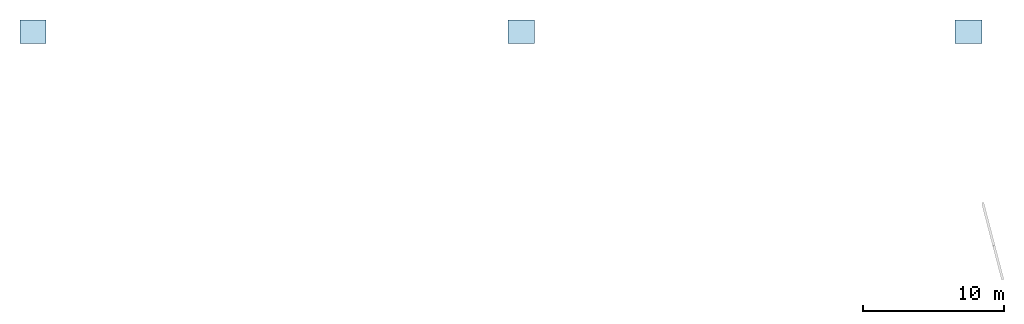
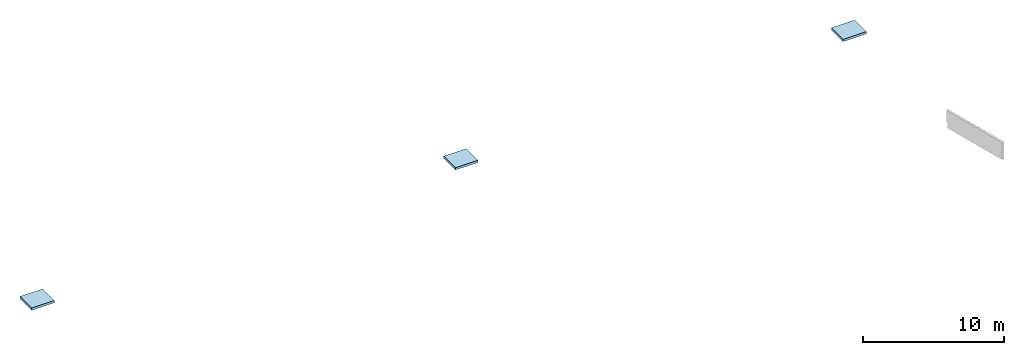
# One storey, part 1 of 2: 3 slabs.
"""IFC2X3 building model written with IfcOpenShell, lengths in centimetres."""

from ifc_helpers import new_model, entity, si_unit, converted_unit, derived_unit, direction, frame, frame_2d, origin, place, context, subcontext, project, spatial, rectangle, extrude, material, layer, layer_set, layer_usage, element, save


model = new_model("IFC2X3")

# Units and contexts
model_context = context("Model", 3, precision=0.001, world=origin(), true_north=direction((6.12303176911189e-17, 1.0)))
body_context = subcontext(model_context, "Body", "Model", "MODEL_VIEW")
ifc_project = project(units=[si_unit("LENGTHUNIT", "METRE", prefix="CENTI"), si_unit("AREAUNIT", "SQUARE_METRE"), si_unit("VOLUMEUNIT", "CUBIC_METRE"), converted_unit("PLANEANGLEUNIT", "DEGREE", entity("IfcRatioMeasure", 0.0174532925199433), si_unit("PLANEANGLEUNIT", "RADIAN"), dimensions=[0, 0, 0, 0, 0, 0, 0]), si_unit("MASSUNIT", "GRAM", prefix="KILO"), derived_unit("MASSDENSITYUNIT", [(si_unit("MASSUNIT", "GRAM", prefix="KILO"), 1), (si_unit("LENGTHUNIT", "METRE"), -3)]), si_unit("TIMEUNIT", "SECOND"), si_unit("FREQUENCYUNIT", "HERTZ"), si_unit("THERMODYNAMICTEMPERATUREUNIT", "DEGREE_CELSIUS"), derived_unit("THERMALTRANSMITTANCEUNIT", [(si_unit("MASSUNIT", "GRAM", prefix="KILO"), 1), (si_unit("THERMODYNAMICTEMPERATUREUNIT", "KELVIN"), -1), (si_unit("TIMEUNIT", "SECOND"), -3)]), derived_unit("VOLUMETRICFLOWRATEUNIT", [(si_unit("LENGTHUNIT", "METRE"), 3), (si_unit("TIMEUNIT", "SECOND"), -1)]), si_unit("ELECTRICCURRENTUNIT", "AMPERE"), si_unit("ELECTRICVOLTAGEUNIT", "VOLT"), si_unit("POWERUNIT", "WATT"), si_unit("FORCEUNIT", "NEWTON"), si_unit("ILLUMINANCEUNIT", "LUX"), si_unit("LUMINOUSFLUXUNIT", "LUMEN"), si_unit("LUMINOUSINTENSITYUNIT", "CANDELA"), derived_unit("USERDEFINED", [(si_unit("MASSUNIT", "GRAM", prefix="KILO"), -1), (si_unit("LENGTHUNIT", "METRE"), -2), (si_unit("TIMEUNIT", "SECOND"), 3), (si_unit("LUMINOUSFLUXUNIT", "LUMEN"), 1)]), derived_unit("LINEARVELOCITYUNIT", [(si_unit("LENGTHUNIT", "METRE"), 1), (si_unit("TIMEUNIT", "SECOND"), -1)]), si_unit("PRESSUREUNIT", "PASCAL"), derived_unit("USERDEFINED", [(si_unit("LENGTHUNIT", "METRE"), -2), (si_unit("MASSUNIT", "GRAM", prefix="KILO"), 1), (si_unit("TIMEUNIT", "SECOND"), -2)])], contexts=[model_context])

# Site, building, storey
site_placement = place(None, origin())
site = spatial("IfcSite", under=ifc_project, at=site_placement, Name="Default", CompositionType="ELEMENT")
building_placement = place(site_placement, origin())
building = spatial("IfcBuilding", under=site, at=building_placement, Name="CAGE 03", CompositionType="ELEMENT")
storey_placement = place(building_placement, frame((0.0, 0.0, 1795.0)))
storey = spatial("IfcBuildingStorey", under=building, at=storey_placement, Name="Acrotère", CompositionType="ELEMENT", Elevation=1795.0)

# Slabs
ifc_material = material(Name="Béton, C25/30")
ifc_layer = layer(ifc_material, 20.0)
ifc_layer_set = layer_set([ifc_layer], Name="Sol:Dalle Béton - 20 cm")
ifc_layer_usage_1 = layer_usage(ifc_layer_set, "AXIS3", "POSITIVE", 0.0)
slab_1_placement = place(storey_placement, origin())
element("IfcSlab", 1, at=slab_1_placement, inside=storey, material=ifc_layer_usage_1, Name="Sol:Dalle Béton - 20 cm", ObjectType="Sol:Dalle Béton - 20 cm", PredefinedType="FLOOR", context=body_context, shape_type="SweptSolid", body=[
    extrude(rectangle(XDim=165.500000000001, YDim=185.499999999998, at=frame_2d((-4.33431068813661e-13, 0.0), x_axis=(1.0, 0.0))), frame((7226.11582014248, 5027.9106660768, -10.0), z_axis=(0.0, 0.0, -1.0), x_axis=(0.0, 1.0, 0.0)), (0.0, 0.0, 1.0), 20.0),
])
ifc_layer_usage_2 = layer_usage(ifc_layer_set, "AXIS3", "POSITIVE", 0.0)
slab_2_placement = place(storey_placement, origin())
element("IfcSlab", 2, at=slab_2_placement, inside=storey, material=ifc_layer_usage_2, Name="Sol:Dalle Béton - 20 cm", ObjectType="Sol:Dalle Béton - 20 cm", PredefinedType="FLOOR", context=body_context, shape_type="SweptSolid", body=[
    extrude(rectangle(XDim=165.500000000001, YDim=191.000000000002, at=frame_2d((-4.33431068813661e-13, 0.0), x_axis=(1.0, 0.0))), frame((10400.3658201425, 5027.91066607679, -10.0), z_axis=(0.0, 0.0, -1.0), x_axis=(0.0, 1.0, 0.0)), (0.0, 0.0, 1.0), 20.0),
])
ifc_layer_usage_3 = layer_usage(ifc_layer_set, "AXIS3", "POSITIVE", 0.0)
slab_3_placement = place(storey_placement, origin())
element("IfcSlab", 3, at=slab_3_placement, inside=storey, material=ifc_layer_usage_3, Name="Sol:Dalle Béton - 20 cm", ObjectType="Sol:Dalle Béton - 20 cm", PredefinedType="FLOOR", context=body_context, shape_type="SweptSolid", body=[
    extrude(rectangle(XDim=165.500000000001, YDim=185.499999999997, at=frame_2d((4.33431068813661e-13, 2.1316282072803e-13), x_axis=(1.0, 0.0))), frame((3759.61582014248, 5027.91066607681, -10.0), z_axis=(0.0, 0.0, -1.0), x_axis=(0.0, 1.0, 0.0)), (0.0, 0.0, 1.0), 20.0),
])

save(model, "model.ifc")
